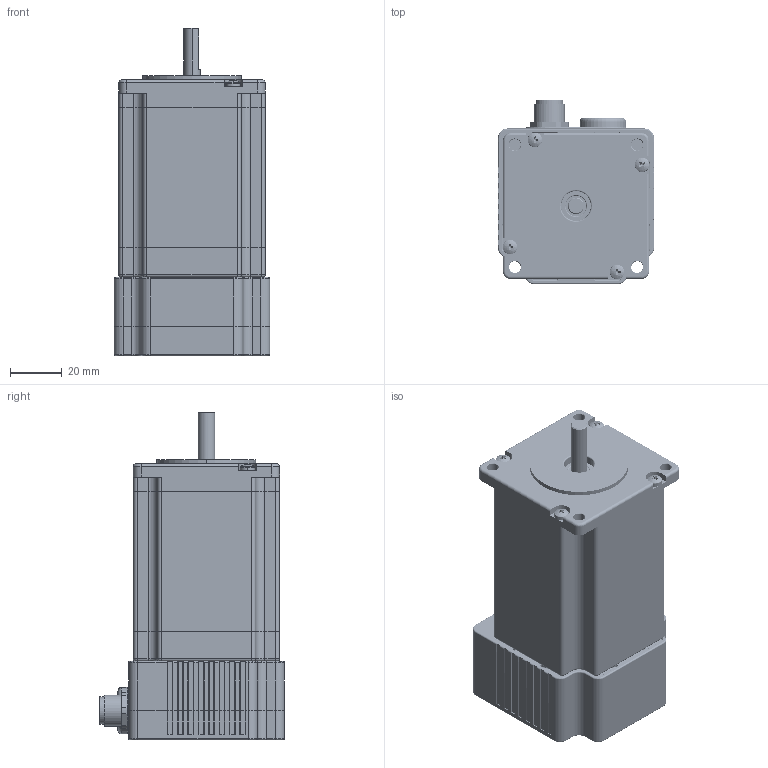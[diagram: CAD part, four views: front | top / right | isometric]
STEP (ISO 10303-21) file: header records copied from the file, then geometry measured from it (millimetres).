
FILE_DESCRIPTION (( 'STEP AP214' ), '1' );
FILE_NAME ('M57SH76-T-C.STEP', '2025-05-17T09:10:18', ( '' ), ( '' ), 'SwSTEP 2.0', 'SolidWorks 2019', '' );
FILE_SCHEMA (( 'AUTOMOTIVE_DESIGN' ));
Length unit declared in the file: millimetre
Products named in the file (1): M57SH76-T-C
Bounding box: 60 x 71.1 x 126.4 mm (x, y, z)
Volume: 119429.2 mm3; surface area: 91271.4 mm2
Topology: 18 solids, 18 shells, 4529 faces, 11576 edges, 7268 vertices
Faces by surface type: plane 1514, cylinder 1330, torus 577, bspline 550, cone 497, sphere 61
Entity records: 217858 total; most frequent: CARTESIAN_POINT 60313, ORIENTED_EDGE 23012, DIRECTION 21978, EDGE_CURVE 11506, AXIS2_PLACEMENT_3D 8351, VERTEX_POINT 7268, VECTOR 5276, LINE 5276
